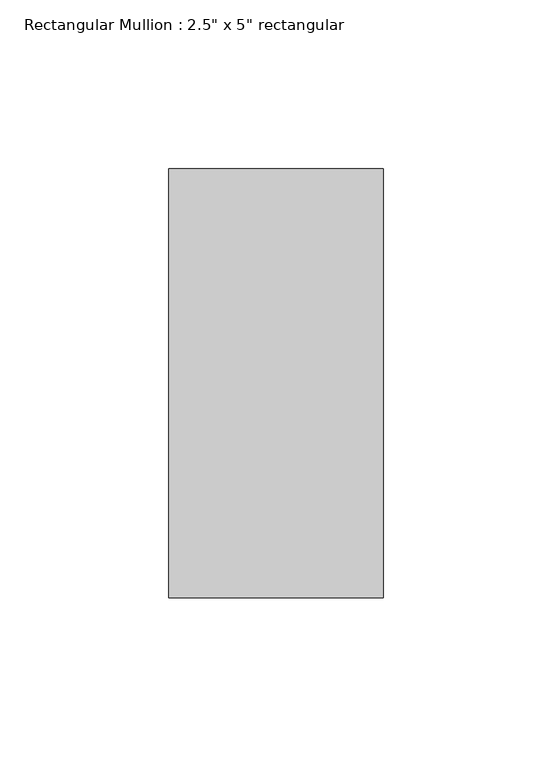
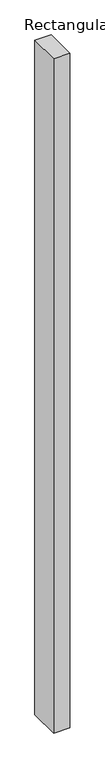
"""IFC4 building model written with IfcOpenShell, lengths in millimetres: member geometry."""

from ifc_helpers import new_model, si_unit, frame, origin, place, context, project, spatial, polyline, outline, extrude, source, transform, mapped, element, save


def member_b11f405a(model_context):
    return source(origin(), model_context, "Body", "SweptSolid", [
        extrude(outline(polyline([(0.0, 63.5), (0.0, -63.5), (-63.5, -63.5), (-63.5, 63.5), (0.0, 63.5)])), frame((0.0, 0.0, -2800.35), z_axis=(0.0, 0.0, 1.0), x_axis=(1.0, 0.0, 0.0)), (0.0, 0.0, 1.0), 2800.35),
    ])


if __name__ == "__main__":
    model = new_model("IFC4")
    model_context = context("Model", 3, world=origin())
    ifc_project = project(units=[si_unit("LENGTHUNIT", "METRE", prefix="MILLI")], contexts=[model_context])
    site = spatial("IfcSite", under=ifc_project)
    building = spatial("IfcBuilding", under=site)
    placement = place(None, origin())
    member_shape = member_b11f405a(model_context)
    element("IfcMember", 1, ObjectType="Rectangular Mullion : 2.5\" x 5\" rectangular", at=placement, inside=building, context=model_context, shape_type="MappedRepresentation", body=[
        mapped(member_shape, transform((0.0, 0.0, 0.0), x_axis=(1.0, 0.0, 0.0), y_axis=(0.0, 1.0, 0.0), z_axis=(0.0, 0.0, 1.0))),
    ])
    save(model, "model.ifc")
